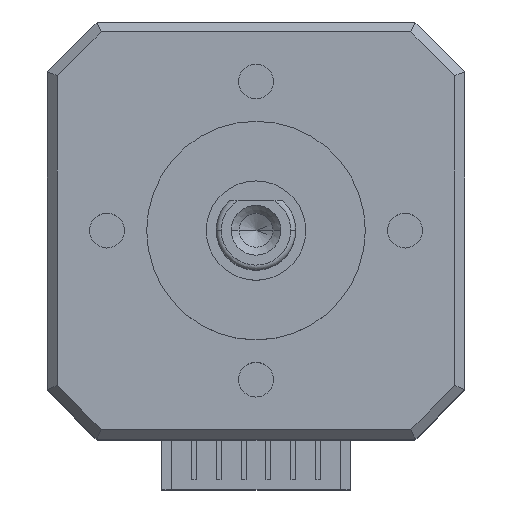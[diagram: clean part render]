
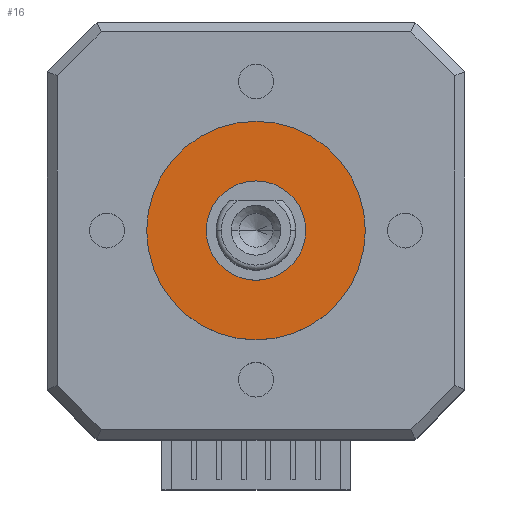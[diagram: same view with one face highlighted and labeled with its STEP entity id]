
A CAD part, top view. The second image highlights one B-rep face of the part: STEP entity #16.
In plain terms, the highlighted planar face has unit normal (0, 0, 1).
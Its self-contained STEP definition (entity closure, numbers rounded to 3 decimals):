
#16 = ADVANCED_FACE ( 'NONE', ( #278, #3231 ), #846, .F. ) ;
#81 = CARTESIAN_POINT ( 'NONE',  ( 0., 0., 2. ) ) ;
#188 = CIRCLE ( 'NONE', #650, 11. ) ;
#231 = DIRECTION ( 'NONE',  ( -1., 0., 0. ) ) ;
#244 = CIRCLE ( 'NONE', #820, 11. ) ;
#260 = VERTEX_POINT ( 'NONE', #2176 ) ;
#278 = FACE_OUTER_BOUND ( 'NONE', #2935, .T. ) ;
#315 = EDGE_CURVE ( 'NONE', #3212, #260, #188, .T. ) ;
#330 = DIRECTION ( 'NONE',  ( 0., 0., -1. ) ) ;
#355 = DIRECTION ( 'NONE',  ( -1., 0., 0. ) ) ;
#410 = CARTESIAN_POINT ( 'NONE',  ( 5., 0., 2. ) ) ;
#414 = CARTESIAN_POINT ( 'NONE',  ( 0., 0., 2. ) ) ;
#538 = EDGE_CURVE ( 'NONE', #2372, #1404, #2763, .T. ) ;
#650 = AXIS2_PLACEMENT_3D ( 'NONE', #932, #330, #355 ) ;
#797 = EDGE_CURVE ( 'NONE', #1404, #2372, #3376, .T. ) ;
#810 = EDGE_LOOP ( 'NONE', ( #834, #3451 ) ) ;
#820 = AXIS2_PLACEMENT_3D ( 'NONE', #3070, #1380, #870 ) ;
#834 = ORIENTED_EDGE ( 'NONE', *, *, #538, .F. ) ;
#846 = PLANE ( 'NONE',  #3353 ) ;
#870 = DIRECTION ( 'NONE',  ( -1., 0., 0. ) ) ;
#932 = CARTESIAN_POINT ( 'NONE',  ( 0., 0., 2. ) ) ;
#1357 = ORIENTED_EDGE ( 'NONE', *, *, #2704, .F. ) ;
#1380 = DIRECTION ( 'NONE',  ( 0., 0., -1. ) ) ;
#1404 = VERTEX_POINT ( 'NONE', #410 ) ;
#1703 = CARTESIAN_POINT ( 'NONE',  ( 0., 0., 2. ) ) ;
#1725 = CARTESIAN_POINT ( 'NONE',  ( 11., 0., 2. ) ) ;
#1759 = DIRECTION ( 'NONE',  ( -1., 0., 0. ) ) ;
#2176 = CARTESIAN_POINT ( 'NONE',  ( -11., 0., 2. ) ) ;
#2267 = DIRECTION ( 'NONE',  ( 0., 0., -1. ) ) ;
#2369 = AXIS2_PLACEMENT_3D ( 'NONE', #81, #3193, #1759 ) ;
#2372 = VERTEX_POINT ( 'NONE', #2388 ) ;
#2388 = CARTESIAN_POINT ( 'NONE',  ( -5., 0., 2. ) ) ;
#2407 = DIRECTION ( 'NONE',  ( -1., 0., 0. ) ) ;
#2704 = EDGE_CURVE ( 'NONE', #260, #3212, #244, .T. ) ;
#2710 = AXIS2_PLACEMENT_3D ( 'NONE', #414, #3225, #2407 ) ;
#2763 = CIRCLE ( 'NONE', #2710, 5. ) ;
#2935 = EDGE_LOOP ( 'NONE', ( #1357, #3104 ) ) ;
#3070 = CARTESIAN_POINT ( 'NONE',  ( 0., 0., 2. ) ) ;
#3104 = ORIENTED_EDGE ( 'NONE', *, *, #315, .F. ) ;
#3193 = DIRECTION ( 'NONE',  ( 0., 0., 1. ) ) ;
#3212 = VERTEX_POINT ( 'NONE', #1725 ) ;
#3225 = DIRECTION ( 'NONE',  ( 0., 0., 1. ) ) ;
#3231 = FACE_BOUND ( 'NONE', #810, .T. ) ;
#3353 = AXIS2_PLACEMENT_3D ( 'NONE', #1703, #2267, #231 ) ;
#3376 = CIRCLE ( 'NONE', #2369, 5. ) ;
#3451 = ORIENTED_EDGE ( 'NONE', *, *, #797, .F. ) ;
